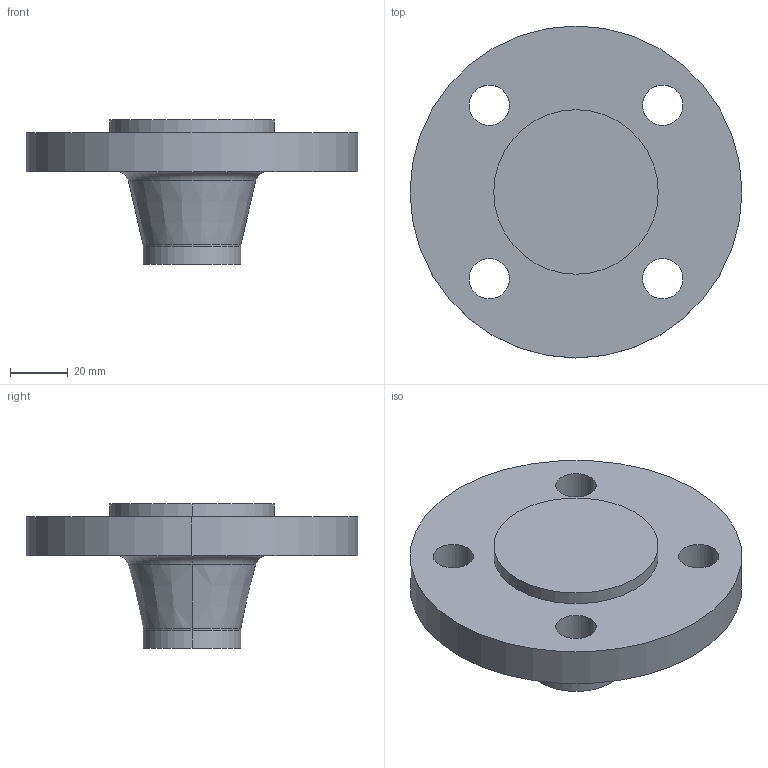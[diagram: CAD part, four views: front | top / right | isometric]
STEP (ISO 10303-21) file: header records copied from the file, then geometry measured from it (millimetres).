
FILE_DESCRIPTION (( 'STEP AP214' ), '1' );
FILE_NAME ('PN40 DN25 Type 21(ii) - Type E Face.STEP', '2018-12-29T20:13:36', ( '' ), ( '' ), 'SwSTEP 2.0', 'SolidWorks 2019', '' );
FILE_SCHEMA (( 'AUTOMOTIVE_DESIGN' ));
Length unit declared in the file: millimetre
Products named in the file (1): PN40 DN25 Type 21(ii) - Type E Face
Bounding box: 115 x 115 x 50 mm (x, y, z)
Volume: 181262.5 mm3; surface area: 30672.7 mm2
Topology: 1 solids, 1 shells, 24 faces, 54 edges, 34 vertices
Faces by surface type: cylinder 14, torus 4, plane 4, cone 2
Entity records: 738 total; most frequent: DIRECTION 142, CARTESIAN_POINT 113, ORIENTED_EDGE 108, AXIS2_PLACEMENT_3D 63, EDGE_CURVE 54, CIRCLE 38, VERTEX_POINT 34, EDGE_LOOP 34
